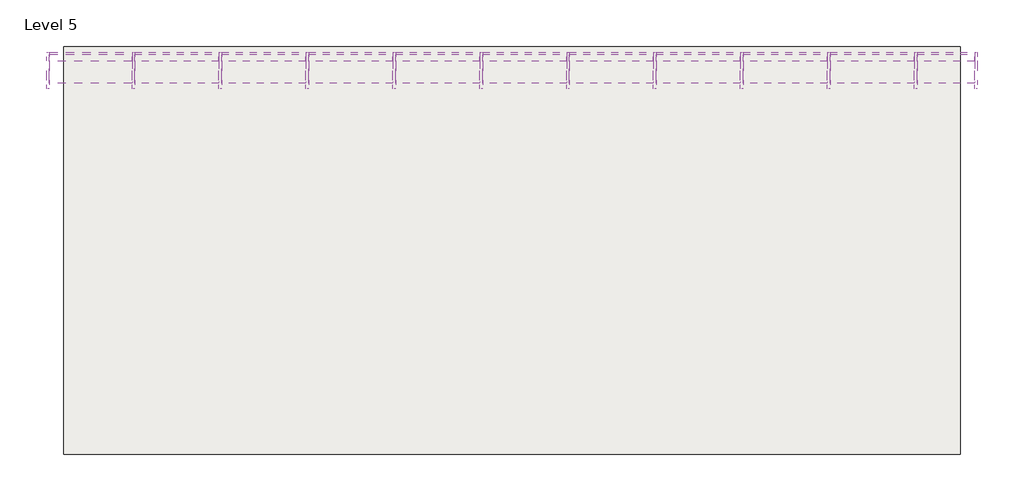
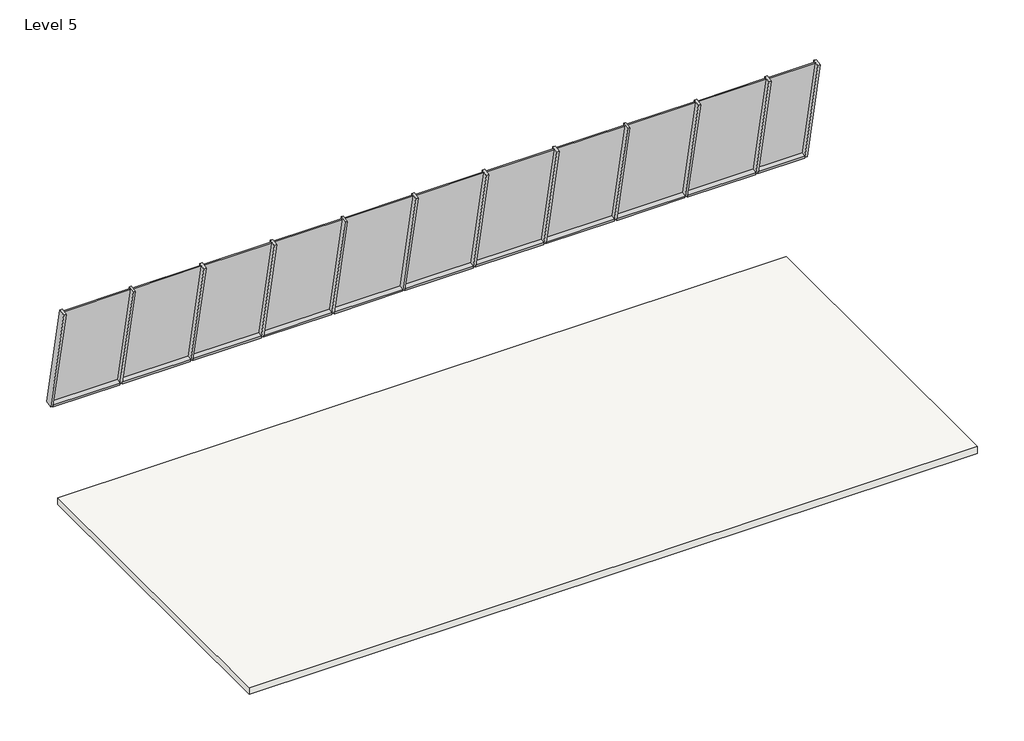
# One storey: 23 members, 11 plates, 1 slab.
"""IFC4 building model written with IfcOpenShell, lengths in millimetres."""

from ifc_helpers import new_model, si_unit, frame, origin, place, context, project, spatial, polyline, outline, extrude, transform, mapped, element, save
from components import rectangular_mullion_50_x_150mm_662c37b1, rectangular_mullion_50_x_150mm_1f4d75dd, rectangular_mullion_50_x_150mm_f0154c62, rectangular_mullion_50_x_150mm_b8d1d5e0, rectangular_mullion_50_x_150mm_6225e4e3, system_panel_glazed_129cb0d4, system_panel_glazed_b38f2dba, system_panel_glazed_1b308fc3

model = new_model("IFC4")

# Units and contexts
model_context = context("Model", 3, world=origin())
ifc_project = project(units=[si_unit("LENGTHUNIT", "METRE", prefix="MILLI")], contexts=[model_context])

# Site, building, storey
site = spatial("IfcSite", under=ifc_project)
building = spatial("IfcBuilding", under=site)
storey = spatial("IfcBuildingStorey", under=building, Name="Level 5", Elevation=16000.0)

# Members
placement = place(None, origin())
rectangular_mullion_50_x_150mm_shape = rectangular_mullion_50_x_150mm_662c37b1(model_context)
element("IfcMember", 1, ObjectType="Rectangular Mullion : 50 x 150mm", at=placement, inside=storey, context=model_context, shape_type="MappedRepresentation", body=[
    mapped(rectangular_mullion_50_x_150mm_shape, transform((7953.3508723, 5066.3421803, 20663.8001283), x_axis=(1.0, 0.0, 0.0), y_axis=(0.0, 0.9794896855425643, 0.20149430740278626), z_axis=(0.0, -0.20149430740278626, 0.9794896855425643))),
])
element("IfcMember", 2, ObjectType="Rectangular Mullion : 50 x 150mm", at=placement, inside=storey, context=model_context, shape_type="MappedRepresentation", body=[
    mapped(rectangular_mullion_50_x_150mm_shape, transform((-8113.532296, 5549.9285181, 18313.024883), x_axis=(-1.0, 0.0, 0.0), y_axis=(0.0, 0.9794896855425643, 0.20149430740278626), z_axis=(0.0, 0.20149430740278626, -0.9794896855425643))),
])
rectangular_mullion_50_x_150mm_2_shape = rectangular_mullion_50_x_150mm_1f4d75dd(model_context)
element("IfcMember", 3, ObjectType="Rectangular Mullion : 50 x 150mm", at=placement, inside=storey, context=model_context, shape_type="MappedRepresentation", body=[
    mapped(rectangular_mullion_50_x_150mm_2_shape, transform((-8063.532296, 5549.9285181, 18313.024883), x_axis=(0.0, -0.2014943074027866, 0.9794896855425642), y_axis=(0.0, 0.9794896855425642, 0.2014943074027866), z_axis=(-1.0, 0.0, 0.0))),
])
rectangular_mullion_50_x_150mm_3_shape = rectangular_mullion_50_x_150mm_f0154c62(model_context)
element("IfcMember", 4, ObjectType="Rectangular Mullion : 50 x 150mm", at=placement, inside=storey, context=model_context, shape_type="MappedRepresentation", body=[
    mapped(rectangular_mullion_50_x_150mm_3_shape, transform((-6588.532296, 5549.9285181, 18313.024883), x_axis=(0.0, -0.2014943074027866, 0.9794896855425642), y_axis=(0.0, 0.9794896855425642, 0.2014943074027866), z_axis=(-1.0, 0.0, 0.0))),
])
element("IfcMember", 5, ObjectType="Rectangular Mullion : 50 x 150mm", at=placement, inside=storey, context=model_context, shape_type="MappedRepresentation", body=[
    mapped(rectangular_mullion_50_x_150mm_3_shape, transform((-5088.532296, 5549.9285181, 18313.024883), x_axis=(0.0, -0.2014943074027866, 0.9794896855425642), y_axis=(0.0, 0.9794896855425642, 0.2014943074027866), z_axis=(-1.0, 0.0, 0.0))),
])
element("IfcMember", 6, ObjectType="Rectangular Mullion : 50 x 150mm", at=placement, inside=storey, context=model_context, shape_type="MappedRepresentation", body=[
    mapped(rectangular_mullion_50_x_150mm_3_shape, transform((-3588.532296, 5549.9285181, 18313.024883), x_axis=(0.0, -0.2014943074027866, 0.9794896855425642), y_axis=(0.0, 0.9794896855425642, 0.2014943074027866), z_axis=(-1.0, 0.0, 0.0))),
])
element("IfcMember", 7, ObjectType="Rectangular Mullion : 50 x 150mm", at=placement, inside=storey, context=model_context, shape_type="MappedRepresentation", body=[
    mapped(rectangular_mullion_50_x_150mm_3_shape, transform((-2088.532296, 5549.9285181, 18313.024883), x_axis=(0.0, -0.2014943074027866, 0.9794896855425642), y_axis=(0.0, 0.9794896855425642, 0.2014943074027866), z_axis=(-1.0, 0.0, 0.0))),
])
element("IfcMember", 8, ObjectType="Rectangular Mullion : 50 x 150mm", at=placement, inside=storey, context=model_context, shape_type="MappedRepresentation", body=[
    mapped(rectangular_mullion_50_x_150mm_3_shape, transform((-588.532296, 5549.9285181, 18313.024883), x_axis=(0.0, -0.2014943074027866, 0.9794896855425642), y_axis=(0.0, 0.9794896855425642, 0.2014943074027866), z_axis=(-1.0, 0.0, 0.0))),
])
element("IfcMember", 9, ObjectType="Rectangular Mullion : 50 x 150mm", at=placement, inside=storey, context=model_context, shape_type="MappedRepresentation", body=[
    mapped(rectangular_mullion_50_x_150mm_3_shape, transform((911.467704, 5549.9285181, 18313.024883), x_axis=(0.0, -0.2014943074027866, 0.9794896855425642), y_axis=(0.0, 0.9794896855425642, 0.2014943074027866), z_axis=(-1.0, 0.0, 0.0))),
])
element("IfcMember", 10, ObjectType="Rectangular Mullion : 50 x 150mm", at=placement, inside=storey, context=model_context, shape_type="MappedRepresentation", body=[
    mapped(rectangular_mullion_50_x_150mm_3_shape, transform((2411.467704, 5549.9285181, 18313.024883), x_axis=(0.0, -0.2014943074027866, 0.9794896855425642), y_axis=(0.0, 0.9794896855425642, 0.2014943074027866), z_axis=(-1.0, 0.0, 0.0))),
])
element("IfcMember", 11, ObjectType="Rectangular Mullion : 50 x 150mm", at=placement, inside=storey, context=model_context, shape_type="MappedRepresentation", body=[
    mapped(rectangular_mullion_50_x_150mm_3_shape, transform((3911.467704, 5549.9285181, 18313.024883), x_axis=(0.0, -0.2014943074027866, 0.9794896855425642), y_axis=(0.0, 0.9794896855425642, 0.2014943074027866), z_axis=(-1.0, 0.0, 0.0))),
])
element("IfcMember", 12, ObjectType="Rectangular Mullion : 50 x 150mm", at=placement, inside=storey, context=model_context, shape_type="MappedRepresentation", body=[
    mapped(rectangular_mullion_50_x_150mm_3_shape, transform((5411.467704, 5549.9285181, 18313.024883), x_axis=(0.0, -0.2014943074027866, 0.9794896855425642), y_axis=(0.0, 0.9794896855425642, 0.2014943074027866), z_axis=(-1.0, 0.0, 0.0))),
])
rectangular_mullion_50_x_150mm_4_shape = rectangular_mullion_50_x_150mm_b8d1d5e0(model_context)
element("IfcMember", 13, ObjectType="Rectangular Mullion : 50 x 150mm", at=placement, inside=storey, context=model_context, shape_type="MappedRepresentation", body=[
    mapped(rectangular_mullion_50_x_150mm_4_shape, transform((6911.467704, 5549.9285181, 18313.024883), x_axis=(0.0, -0.2014943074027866, 0.9794896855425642), y_axis=(0.0, 0.9794896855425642, 0.2014943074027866), z_axis=(-1.0, 0.0, 0.0))),
])
rectangular_mullion_50_x_150mm_5_shape = rectangular_mullion_50_x_150mm_6225e4e3(model_context)
element("IfcMember", 14, ObjectType="Rectangular Mullion : 50 x 150mm", at=placement, inside=storey, context=model_context, shape_type="MappedRepresentation", body=[
    mapped(rectangular_mullion_50_x_150mm_5_shape, transform((-6613.532296, 5066.3421803, 20663.8001283), x_axis=(1.0, 0.0, 0.0), y_axis=(0.0, 0.9794896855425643, 0.20149430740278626), z_axis=(0.0, -0.20149430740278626, 0.9794896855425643))),
])
element("IfcMember", 15, ObjectType="Rectangular Mullion : 50 x 150mm", at=placement, inside=storey, context=model_context, shape_type="MappedRepresentation", body=[
    mapped(rectangular_mullion_50_x_150mm_5_shape, transform((-5113.532296, 5066.3421803, 20663.8001283), x_axis=(1.0, 0.0, 0.0), y_axis=(0.0, 0.9794896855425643, 0.20149430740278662), z_axis=(0.0, -0.20149430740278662, 0.9794896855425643))),
])
element("IfcMember", 16, ObjectType="Rectangular Mullion : 50 x 150mm", at=placement, inside=storey, context=model_context, shape_type="MappedRepresentation", body=[
    mapped(rectangular_mullion_50_x_150mm_5_shape, transform((-3613.532296, 5066.3421803, 20663.8001283), x_axis=(1.0, 0.0, 0.0), y_axis=(0.0, 0.9794896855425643, 0.20149430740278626), z_axis=(0.0, -0.20149430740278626, 0.9794896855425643))),
])
element("IfcMember", 17, ObjectType="Rectangular Mullion : 50 x 150mm", at=placement, inside=storey, context=model_context, shape_type="MappedRepresentation", body=[
    mapped(rectangular_mullion_50_x_150mm_5_shape, transform((-2113.532296, 5066.3421803, 20663.8001283), x_axis=(1.0, 0.0, 0.0), y_axis=(0.0, 0.9794896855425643, 0.20149430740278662), z_axis=(0.0, -0.20149430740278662, 0.9794896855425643))),
])
element("IfcMember", 18, ObjectType="Rectangular Mullion : 50 x 150mm", at=placement, inside=storey, context=model_context, shape_type="MappedRepresentation", body=[
    mapped(rectangular_mullion_50_x_150mm_5_shape, transform((-613.532296, 5066.3421803, 20663.8001283), x_axis=(1.0, 0.0, 0.0), y_axis=(0.0, 0.9794896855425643, 0.20149430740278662), z_axis=(0.0, -0.20149430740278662, 0.9794896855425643))),
])
element("IfcMember", 19, ObjectType="Rectangular Mullion : 50 x 150mm", at=placement, inside=storey, context=model_context, shape_type="MappedRepresentation", body=[
    mapped(rectangular_mullion_50_x_150mm_5_shape, transform((886.467704, 5066.3421803, 20663.8001283), x_axis=(1.0, 0.0, 0.0), y_axis=(0.0, 0.9794896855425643, 0.20149430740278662), z_axis=(0.0, -0.20149430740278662, 0.9794896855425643))),
])
element("IfcMember", 20, ObjectType="Rectangular Mullion : 50 x 150mm", at=placement, inside=storey, context=model_context, shape_type="MappedRepresentation", body=[
    mapped(rectangular_mullion_50_x_150mm_5_shape, transform((2386.467704, 5066.3421803, 20663.8001283), x_axis=(1.0, 0.0, 0.0), y_axis=(0.0, 0.9794896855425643, 0.20149430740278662), z_axis=(0.0, -0.20149430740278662, 0.9794896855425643))),
])
element("IfcMember", 21, ObjectType="Rectangular Mullion : 50 x 150mm", at=placement, inside=storey, context=model_context, shape_type="MappedRepresentation", body=[
    mapped(rectangular_mullion_50_x_150mm_5_shape, transform((3886.467704, 5066.3421803, 20663.8001283), x_axis=(1.0, 0.0, 0.0), y_axis=(0.0, 0.9794896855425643, 0.20149430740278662), z_axis=(0.0, -0.20149430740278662, 0.9794896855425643))),
])
element("IfcMember", 22, ObjectType="Rectangular Mullion : 50 x 150mm", at=placement, inside=storey, context=model_context, shape_type="MappedRepresentation", body=[
    mapped(rectangular_mullion_50_x_150mm_5_shape, transform((5386.467704, 5066.3421803, 20663.8001283), x_axis=(1.0, 0.0, 0.0), y_axis=(0.0, 0.9794896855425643, 0.20149430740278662), z_axis=(0.0, -0.20149430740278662, 0.9794896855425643))),
])
element("IfcMember", 23, ObjectType="Rectangular Mullion : 50 x 150mm", at=placement, inside=storey, context=model_context, shape_type="MappedRepresentation", body=[
    mapped(rectangular_mullion_50_x_150mm_5_shape, transform((6886.467704, 5066.3421803, 20663.8001283), x_axis=(1.0, 0.0, 0.0), y_axis=(0.0, 0.9794896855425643, 0.20149430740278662), z_axis=(0.0, -0.20149430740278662, 0.9794896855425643))),
])

# Plates
system_panel_glazed_shape = system_panel_glazed_129cb0d4(model_context)
element("IfcPlate", 24, ObjectType="System Panel : Glazed", at=placement, inside=storey, context=model_context, shape_type="MappedRepresentation", body=[
    mapped(system_panel_glazed_shape, transform((-7351.032296, 5544.8911604, 18337.5121251), x_axis=(1.0, 0.0, 0.0), y_axis=(0.0, 0.9794896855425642, 0.2014943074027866), z_axis=(0.0, -0.2014943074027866, 0.9794896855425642))),
])
system_panel_glazed_2_shape = system_panel_glazed_b38f2dba(model_context)
element("IfcPlate", 25, ObjectType="System Panel : Glazed", at=placement, inside=storey, context=model_context, shape_type="MappedRepresentation", body=[
    mapped(system_panel_glazed_2_shape, transform((-5863.532296, 5544.8911604, 18337.5121251), x_axis=(1.0, 0.0, 0.0), y_axis=(0.0, 0.9794896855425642, 0.2014943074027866), z_axis=(0.0, -0.2014943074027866, 0.9794896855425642))),
])
element("IfcPlate", 26, ObjectType="System Panel : Glazed", at=placement, inside=storey, context=model_context, shape_type="MappedRepresentation", body=[
    mapped(system_panel_glazed_2_shape, transform((-4363.532296, 5544.8911604, 18337.5121251), x_axis=(1.0, 0.0, 0.0), y_axis=(0.0, 0.9794896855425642, 0.2014943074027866), z_axis=(0.0, -0.2014943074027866, 0.9794896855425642))),
])
element("IfcPlate", 27, ObjectType="System Panel : Glazed", at=placement, inside=storey, context=model_context, shape_type="MappedRepresentation", body=[
    mapped(system_panel_glazed_2_shape, transform((-2863.532296, 5544.8911604, 18337.5121251), x_axis=(1.0, 0.0, 0.0), y_axis=(0.0, 0.9794896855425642, 0.2014943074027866), z_axis=(0.0, -0.2014943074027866, 0.9794896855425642))),
])
element("IfcPlate", 28, ObjectType="System Panel : Glazed", at=placement, inside=storey, context=model_context, shape_type="MappedRepresentation", body=[
    mapped(system_panel_glazed_2_shape, transform((-1363.532296, 5544.8911604, 18337.5121251), x_axis=(1.0, 0.0, 0.0), y_axis=(0.0, 0.9794896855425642, 0.2014943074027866), z_axis=(0.0, -0.2014943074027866, 0.9794896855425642))),
])
element("IfcPlate", 29, ObjectType="System Panel : Glazed", at=placement, inside=storey, context=model_context, shape_type="MappedRepresentation", body=[
    mapped(system_panel_glazed_2_shape, transform((136.467704, 5544.8911604, 18337.5121251), x_axis=(1.0, 0.0, 0.0), y_axis=(0.0, 0.9794896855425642, 0.2014943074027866), z_axis=(0.0, -0.2014943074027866, 0.9794896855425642))),
])
element("IfcPlate", 30, ObjectType="System Panel : Glazed", at=placement, inside=storey, context=model_context, shape_type="MappedRepresentation", body=[
    mapped(system_panel_glazed_2_shape, transform((1636.467704, 5544.8911604, 18337.5121251), x_axis=(1.0, 0.0, 0.0), y_axis=(0.0, 0.9794896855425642, 0.2014943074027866), z_axis=(0.0, -0.2014943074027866, 0.9794896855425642))),
])
element("IfcPlate", 31, ObjectType="System Panel : Glazed", at=placement, inside=storey, context=model_context, shape_type="MappedRepresentation", body=[
    mapped(system_panel_glazed_2_shape, transform((3136.467704, 5544.8911604, 18337.5121251), x_axis=(1.0, 0.0, 0.0), y_axis=(0.0, 0.9794896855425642, 0.2014943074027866), z_axis=(0.0, -0.2014943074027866, 0.9794896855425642))),
])
element("IfcPlate", 32, ObjectType="System Panel : Glazed", at=placement, inside=storey, context=model_context, shape_type="MappedRepresentation", body=[
    mapped(system_panel_glazed_2_shape, transform((4636.467704, 5544.8911604, 18337.5121251), x_axis=(1.0, 0.0, 0.0), y_axis=(0.0, 0.9794896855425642, 0.2014943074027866), z_axis=(0.0, -0.2014943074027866, 0.9794896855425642))),
])
element("IfcPlate", 33, ObjectType="System Panel : Glazed", at=placement, inside=storey, context=model_context, shape_type="MappedRepresentation", body=[
    mapped(system_panel_glazed_2_shape, transform((6136.467704, 5544.8911604, 18337.5121251), x_axis=(1.0, 0.0, 0.0), y_axis=(0.0, 0.9794896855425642, 0.2014943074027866), z_axis=(0.0, -0.2014943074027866, 0.9794896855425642))),
])
system_panel_glazed_3_shape = system_panel_glazed_1b308fc3(model_context)
element("IfcPlate", 34, ObjectType="System Panel : Glazed", at=placement, inside=storey, context=model_context, shape_type="MappedRepresentation", body=[
    mapped(system_panel_glazed_3_shape, transform((7407.4092881, 5544.8911604, 18337.5121251), x_axis=(1.0, 0.0, 0.0), y_axis=(0.0, 0.9794896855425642, 0.2014943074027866), z_axis=(0.0, -0.2014943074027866, 0.9794896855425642))),
])

# Slab
element("IfcSlab", 35, ObjectType="Generic 150mm", at=placement, inside=storey, context=model_context, shape_type="SweptSolid", body=[
    extrude(outline(polyline([(7653.3508723, -1310.1054831), (-7813.532296, -1310.1054831), (-7813.532296, 5725.7490945), (7653.3508723, 5725.7490945), (7653.3508723, -1310.1054831)])), frame((0.0, 0.0, 15850.0), z_axis=(0.0, 0.0, 1.0), x_axis=(1.0, 0.0, 0.0)), (0.0, 0.0, 1.0), 150.0),
])

save(model, "model.ifc")
